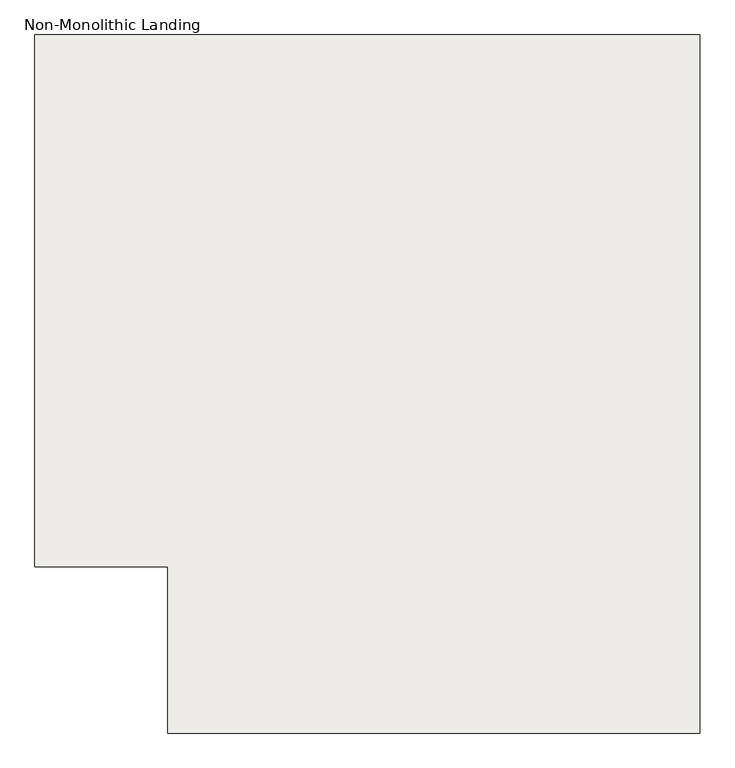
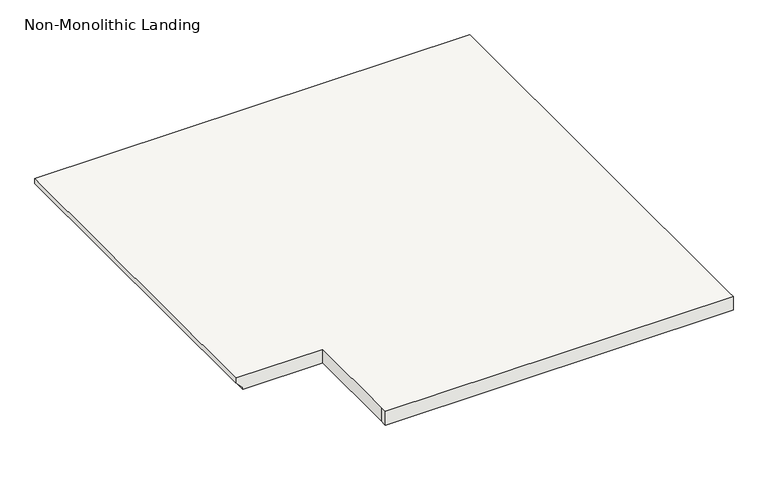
"""IFC4 building model written with IfcOpenShell, lengths in millimetres: slab geometry, Non-Monolithic Landing."""

from ifc_helpers import new_model, si_unit, origin, place, context, project, spatial, faceted_brep, source, transform, mapped, element, save


def non_monolithic_landing_d9560d72(model_context):
    return source(origin(), model_context, "Body", "Brep", [
        faceted_brep([(-2111.017382, 5269.7483604, 2182.2833333), (-2111.017382, 5269.7483604, 2201.3333333), (-2111.017382, 6488.9483604, 2201.3333333), (-2111.017382, 6488.9483604, 2182.2833333), (-2085.617382, 5269.7483604, 2156.8833333), (-2085.617382, 6488.9483604, 2156.8833333), (-1806.217382, 5269.7483604, 2201.3333333), (-1806.217382, 4914.1483604, 2201.3333333), (-1806.217382, 4888.7483604, 2201.3333333), (-587.017382, 4888.7483604, 2201.3333333), (-587.017382, 4914.1483604, 2201.3333333), (-587.017382, 6488.9483604, 2201.3333333), (-2085.617382, 5269.7483604, 2150.5333333), (-2085.617382, 6488.9483604, 2150.5333333), (-587.017382, 6488.9483604, 2150.5333333), (-587.017382, 4914.1483604, 2150.5333333), (-587.017382, 4888.7483604, 2150.5333333), (-1806.217382, 4888.7483604, 2150.5333333), (-1806.217382, 4914.1483604, 2150.5333333), (-1806.217382, 5269.7483604, 2150.5333333)], [[[0, 1, 2, 3]], [[4, 0, 3, 5]], [[6, 7, 8, 9, 10, 11, 2, 1]], [[12, 13, 14, 15, 16, 17, 18, 19]], [[13, 12, 4, 5]], [[6, 1, 0, 4, 12, 19]], [[7, 6, 19, 18]], [[8, 7, 18, 17]], [[9, 8, 17, 16]], [[10, 9, 16, 15]], [[11, 10, 15, 14]], [[2, 11, 14, 13, 5, 3]]]),
    ])


if __name__ == "__main__":
    model = new_model("IFC4")
    model_context = context("Model", 3, world=origin())
    ifc_project = project(units=[si_unit("LENGTHUNIT", "METRE", prefix="MILLI")], contexts=[model_context])
    site = spatial("IfcSite", under=ifc_project)
    building = spatial("IfcBuilding", under=site)
    placement = place(None, origin())
    non_monolithic_landing_shape = non_monolithic_landing_d9560d72(model_context)
    element("IfcSlab", 1, ObjectType="Non-Monolithic Landing", at=placement, inside=building, context=model_context, shape_type="MappedRepresentation", body=[
        mapped(non_monolithic_landing_shape, transform((0.0, 0.0, 0.0), x_axis=(1.0, 0.0, 0.0), y_axis=(0.0, 1.0, 0.0), z_axis=(0.0, 0.0, 1.0))),
    ])
    save(model, "model.ifc")
